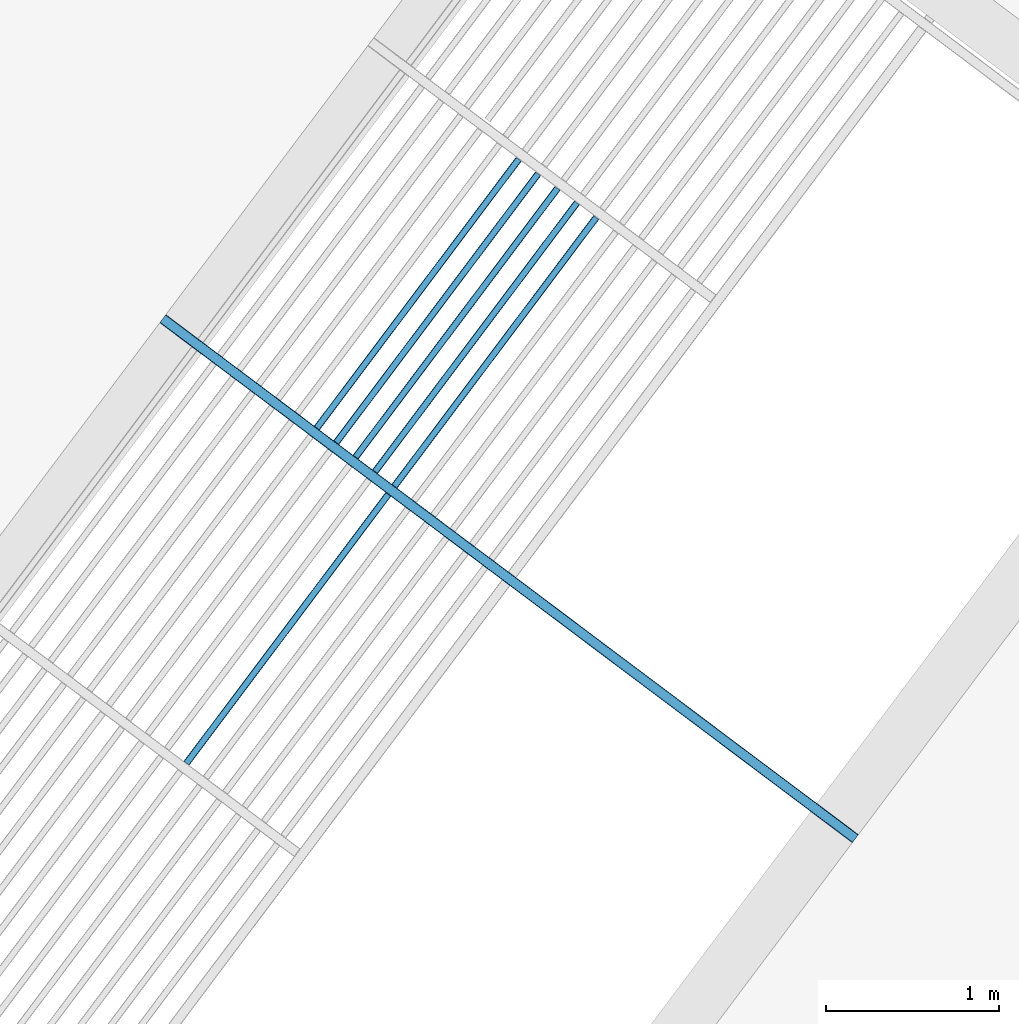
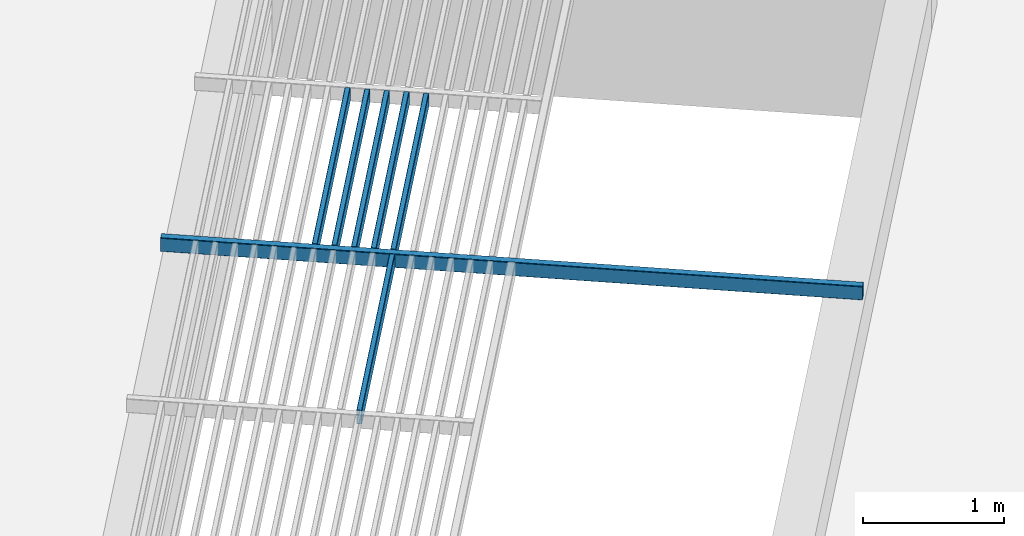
# One storey, part 77 of 95: 7 beams.
"""IFC2X3 building model written with IfcOpenShell, lengths in metres."""

from ifc_helpers import new_model, entity, si_unit, converted_unit, derived_unit, direction, frame, frame_2d, origin, place, context, subcontext, project, spatial, polyline, circle_curve, parameter, trimmed, segment, composite_curve, outline, extrude, material, type_object, element, save


model = new_model("IFC2X3")

# Units and contexts
model_context = context("Model", 3, precision=1e-05, world=origin(), true_north=direction((6.123031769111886e-17, 1.0)))
body_context = subcontext(model_context, "Body", "Model", "MODEL_VIEW")
ifc_project = project(units=[si_unit("LENGTHUNIT", "METRE"), si_unit("AREAUNIT", "SQUARE_METRE"), si_unit("VOLUMEUNIT", "CUBIC_METRE"), converted_unit("PLANEANGLEUNIT", "DEGREE", entity("IfcRatioMeasure", 0.017453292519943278), si_unit("PLANEANGLEUNIT", "RADIAN"), dimensions=[0, 0, 0, 0, 0, 0, 0]), si_unit("MASSUNIT", "GRAM", prefix="KILO"), derived_unit("MASSDENSITYUNIT", [(si_unit("MASSUNIT", "GRAM", prefix="KILO"), 1), (si_unit("LENGTHUNIT", "METRE"), -3)]), derived_unit("IONCONCENTRATIONUNIT", [(si_unit("MASSUNIT", "GRAM", prefix="KILO"), 1), (si_unit("LENGTHUNIT", "METRE"), -3)]), derived_unit("MOMENTOFINERTIAUNIT", [(si_unit("LENGTHUNIT", "METRE"), 4)]), si_unit("TIMEUNIT", "SECOND"), si_unit("FREQUENCYUNIT", "HERTZ"), si_unit("THERMODYNAMICTEMPERATUREUNIT", "DEGREE_CELSIUS"), derived_unit("THERMALTRANSMITTANCEUNIT", [(si_unit("MASSUNIT", "GRAM", prefix="KILO"), 1), (si_unit("THERMODYNAMICTEMPERATUREUNIT", "KELVIN"), -1), (si_unit("TIMEUNIT", "SECOND"), -3)]), derived_unit("THERMALCONDUCTANCEUNIT", [(si_unit("MASSUNIT", "GRAM", prefix="KILO"), 1), (si_unit("THERMODYNAMICTEMPERATUREUNIT", "KELVIN"), -1), (si_unit("TIMEUNIT", "SECOND"), -3), (si_unit("LENGTHUNIT", "METRE"), 1)]), derived_unit("VOLUMETRICFLOWRATEUNIT", [(si_unit("LENGTHUNIT", "METRE"), 3), (si_unit("TIMEUNIT", "SECOND"), -1)]), derived_unit("MASSFLOWRATEUNIT", [(si_unit("MASSUNIT", "GRAM", prefix="KILO"), 1), (si_unit("TIMEUNIT", "SECOND"), -1)]), derived_unit("ROTATIONALFREQUENCYUNIT", [(si_unit("TIMEUNIT", "SECOND"), -1)]), si_unit("ELECTRICCURRENTUNIT", "AMPERE"), si_unit("ELECTRICVOLTAGEUNIT", "VOLT"), si_unit("POWERUNIT", "WATT"), si_unit("FORCEUNIT", "NEWTON", prefix="KILO"), si_unit("ILLUMINANCEUNIT", "LUX"), si_unit("LUMINOUSFLUXUNIT", "LUMEN"), si_unit("LUMINOUSINTENSITYUNIT", "CANDELA"), derived_unit("USERDEFINED", [(si_unit("MASSUNIT", "GRAM", prefix="KILO"), -1), (si_unit("LENGTHUNIT", "METRE"), -2), (si_unit("TIMEUNIT", "SECOND"), 3), (si_unit("LUMINOUSFLUXUNIT", "LUMEN"), 1)]), derived_unit("USERDEFINED", [(si_unit("MASSUNIT", "GRAM", prefix="KILO"), 1), (si_unit("TIMEUNIT", "SECOND"), -3), (si_unit("LENGTHUNIT", "METRE"), 3), (si_unit("ELECTRICCURRENTUNIT", "AMPERE"), -2)]), derived_unit("SOUNDPOWERUNIT", [(si_unit("MASSUNIT", "GRAM", prefix="KILO"), 1), (si_unit("TIMEUNIT", "SECOND"), -3), (si_unit("LENGTHUNIT", "METRE"), 2)]), derived_unit("SOUNDPRESSUREUNIT", [(si_unit("MASSUNIT", "GRAM", prefix="KILO"), 1), (si_unit("LENGTHUNIT", "METRE"), -1), (si_unit("TIMEUNIT", "SECOND"), -2)]), derived_unit("LINEARVELOCITYUNIT", [(si_unit("LENGTHUNIT", "METRE"), 1), (si_unit("TIMEUNIT", "SECOND"), -1)]), si_unit("PRESSUREUNIT", "PASCAL"), derived_unit("USERDEFINED", [(si_unit("MASSUNIT", "GRAM", prefix="KILO"), 1), (si_unit("LENGTHUNIT", "METRE"), -2), (si_unit("TIMEUNIT", "SECOND"), -2)]), derived_unit("LINEARFORCEUNIT", [(si_unit("MASSUNIT", "GRAM", prefix="KILO"), 1), (si_unit("TIMEUNIT", "SECOND"), -2)]), derived_unit("PLANARFORCEUNIT", [(si_unit("MASSUNIT", "GRAM", prefix="KILO"), 1), (si_unit("LENGTHUNIT", "METRE"), -1), (si_unit("TIMEUNIT", "SECOND"), -2)]), derived_unit("SPECIFICHEATCAPACITYUNIT", [(si_unit("THERMODYNAMICTEMPERATUREUNIT", "KELVIN"), -1), (si_unit("LENGTHUNIT", "METRE"), 2), (si_unit("TIMEUNIT", "SECOND"), -2)]), derived_unit("HEATINGVALUEUNIT", [(si_unit("LENGTHUNIT", "METRE"), 2), (si_unit("TIMEUNIT", "SECOND"), -2)]), derived_unit("VAPORPERMEABILITYUNIT", [(si_unit("LENGTHUNIT", "METRE"), -1), (si_unit("TIMEUNIT", "SECOND"), 1)]), derived_unit("DYNAMICVISCOSITYUNIT", [(si_unit("MASSUNIT", "GRAM", prefix="KILO"), 1), (si_unit("TIMEUNIT", "SECOND"), -1), (si_unit("LENGTHUNIT", "METRE"), -1)]), derived_unit("THERMALEXPANSIONCOEFFICIENTUNIT", [(si_unit("THERMODYNAMICTEMPERATUREUNIT", "KELVIN"), -1)]), derived_unit("MODULUSOFELASTICITYUNIT", [(si_unit("MASSUNIT", "GRAM", prefix="KILO"), 1), (si_unit("LENGTHUNIT", "METRE"), -1), (si_unit("TIMEUNIT", "SECOND"), -2)]), derived_unit("ISOTHERMALMOISTURECAPACITYUNIT", [(si_unit("LENGTHUNIT", "METRE"), 3), (si_unit("MASSUNIT", "GRAM", prefix="KILO"), -1)]), derived_unit("MOISTUREDIFFUSIVITYUNIT", [(si_unit("TIMEUNIT", "SECOND"), -1), (si_unit("LENGTHUNIT", "METRE"), 2)])], contexts=[model_context])

# Site, building, storey
site_placement = place(None, origin())
site = spatial("IfcSite", under=ifc_project, at=site_placement, Name="Default", CompositionType="ELEMENT")
building_placement = place(site_placement, frame((0.0, 0.0, 235.0), z_axis=(0.0, 0.0, 1.0), x_axis=(-0.7996477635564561, 0.6004693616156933, 0.0)))
building = spatial("IfcBuilding", under=site, at=building_placement, CompositionType="ELEMENT")
storey_placement = place(building_placement, frame((0.0, 0.0, 3.400000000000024)))
storey = spatial("IfcBuildingStorey", under=building, at=storey_placement, Name="PC- Coberta STR", CompositionType="ELEMENT", Elevation=3.400000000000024)

# Beams
ifc_material = material(Name="_Acer- STR")
beam_type_1 = type_object("IfcBeamType", Name="STR- V- Acer- RHS- Rectangular- T1:120x60RHS", PredefinedType="NOTDEFINED")
beam_1_placement = place(storey_placement, frame((49.045147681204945, -32.4467870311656, 0.49840472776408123), z_axis=(0.0, 0.0, 1.0), x_axis=(-1.0, 0.0, 0.0)))
element("IfcBeam", 1, at=beam_1_placement, inside=storey, type_object=beam_type_1, material=ifc_material, Name="STR- V- Acer- RHS- Rectangular- T1:120x60RHS", ObjectType="STR- V- Acer- RHS- Rectangular- T1:120x60RHS", context=body_context, shape_type="SweptSolid", body=[
    extrude(outline(composite_curve([segment(trimmed(circle_curve(frame_2d((-0.02199999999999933, -0.05200000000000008), x_axis=(1.0, 0.0)), 0.008), [parameter(180.0000000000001)], [parameter(269.99999999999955)], True, "PARAMETER"), True, "CONTINUOUS"), segment(polyline([(-0.022000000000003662, -0.05999999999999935), (0.021999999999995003, -0.05999999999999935)]), True, "CONTINUOUS"), segment(trimmed(circle_curve(frame_2d((0.021999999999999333, -0.05200000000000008), x_axis=(1.0, 0.0)), 0.008), [parameter(269.99999999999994)], [parameter(5.088887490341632e-14)], True, "PARAMETER"), True, "CONTINUOUS"), segment(polyline([(0.029999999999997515, -0.05199999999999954), (0.029999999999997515, 0.052000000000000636)]), True, "CONTINUOUS"), segment(trimmed(circle_curve(frame_2d((0.021999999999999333, 0.052000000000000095), x_axis=(1.0, 0.0)), 0.008), [parameter(359.99999999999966)], [parameter(89.99999999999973)], True, "PARAMETER"), True, "CONTINUOUS"), segment(polyline([(0.021999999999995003, 0.06000000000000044), (-0.022000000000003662, 0.06000000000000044)]), True, "CONTINUOUS"), segment(trimmed(circle_curve(frame_2d((-0.02199999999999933, 0.052000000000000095), x_axis=(1.0, 0.0)), 0.008), [parameter(90.00000000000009)], [parameter(180.00000000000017)], True, "PARAMETER"), True, "CONTINUOUS"), segment(polyline([(-0.03000000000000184, 0.052000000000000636), (-0.03000000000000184, -0.05199999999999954)]), True, "CONTINUOUS")], self_intersect=False), holes=[composite_curve([segment(polyline([(0.021999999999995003, -0.056000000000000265), (-0.022000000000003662, -0.056000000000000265)]), True, "CONTINUOUS"), segment(trimmed(circle_curve(frame_2d((-0.02199999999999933, -0.05200000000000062), x_axis=(1.0, 0.0)), 0.004), [parameter(179.99999999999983)], [parameter(269.9999999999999)], True, "PARAMETER"), False, "CONTINUOUS"), segment(polyline([(-0.02600000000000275, -0.05200000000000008), (-0.02600000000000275, 0.051999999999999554)]), True, "CONTINUOUS"), segment(trimmed(circle_curve(frame_2d((-0.02199999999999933, 0.05199999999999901), x_axis=(1.0, 0.0)), 0.004), [parameter(90.00000000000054)], [parameter(180.00000000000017)], True, "PARAMETER"), False, "CONTINUOUS"), segment(polyline([(-0.022000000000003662, 0.055999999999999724), (0.021999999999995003, 0.055999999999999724)]), True, "CONTINUOUS"), segment(trimmed(circle_curve(frame_2d((0.021999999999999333, 0.05199999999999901), x_axis=(1.0, 0.0)), 0.004), [parameter(0.0)], [parameter(90.00000000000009)], True, "PARAMETER"), False, "CONTINUOUS"), segment(polyline([(0.02599999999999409, 0.051999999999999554), (0.02599999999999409, -0.05200000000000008)]), True, "CONTINUOUS"), segment(trimmed(circle_curve(frame_2d((0.021999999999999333, -0.05200000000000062), x_axis=(1.0, 0.0)), 0.004), [parameter(270.00000000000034)], [parameter(3.5622212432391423e-13)], True, "PARAMETER"), False, "CONTINUOUS")], self_intersect=False)]), frame((-5.0, -0.03159527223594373, 0.061595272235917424), z_axis=(1.0, 0.0, 0.0), x_axis=(0.0, -1.0, 0.0)), (0.0, 0.0, 1.0), 4.999999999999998),
])
beam_type_2 = type_object("IfcBeamType", Name="STR- V- Acer- RHS- Rectangular- T1:120x40RHS -", PredefinedType="NOTDEFINED")
beam_2_placement = place(storey_placement, frame((52.373552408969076, -32.38519175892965, 0.4984047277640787), z_axis=(0.0, 0.0, 1.0), x_axis=(0.0, -1.0, 0.0)))
element("IfcBeam", 2, at=beam_2_placement, inside=storey, type_object=beam_type_2, material=ifc_material, Name="STR- V- Acer- RHS- Rectangular- T1:120x40RHS -", ObjectType="STR- V- Acer- RHS- Rectangular- T1:120x40RHS -", context=body_context, shape_type="SweptSolid", body=[
    extrude(outline(composite_curve([segment(trimmed(circle_curve(frame_2d((-0.01400000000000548, -0.053999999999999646), x_axis=(1.0, 0.0)), 0.006), [parameter(180.0000000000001)], [parameter(269.99999999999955)], True, "PARAMETER"), True, "CONTINUOUS"), segment(polyline([(-0.01400000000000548, -0.0599999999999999), (0.013999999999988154, -0.0599999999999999)]), True, "CONTINUOUS"), segment(trimmed(circle_curve(frame_2d((0.013999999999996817, -0.053999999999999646), x_axis=(1.0, 0.0)), 0.006), [parameter(269.99999999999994)], [parameter(1.0177774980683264e-13)], True, "PARAMETER"), True, "CONTINUOUS"), segment(polyline([(0.019999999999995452, -0.053999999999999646), (0.019999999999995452, 0.05400000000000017)]), True, "CONTINUOUS"), segment(trimmed(circle_curve(frame_2d((0.013999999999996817, 0.05400000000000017), x_axis=(1.0, 0.0)), 0.006), [parameter(359.9999999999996)], [parameter(89.99999999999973)], True, "PARAMETER"), True, "CONTINUOUS"), segment(polyline([(0.013999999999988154, 0.059999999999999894), (-0.01400000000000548, 0.059999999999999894)]), True, "CONTINUOUS"), segment(trimmed(circle_curve(frame_2d((-0.01400000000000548, 0.05400000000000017), x_axis=(1.0, 0.0)), 0.006), [parameter(90.00000000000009)], [parameter(180.00000000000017)], True, "PARAMETER"), True, "CONTINUOUS"), segment(polyline([(-0.02000000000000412, 0.05400000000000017), (-0.02000000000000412, -0.05400000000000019)]), True, "CONTINUOUS")], self_intersect=False), holes=[composite_curve([segment(polyline([(0.013999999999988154, -0.05700000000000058), (-0.01400000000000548, -0.05700000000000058)]), True, "CONTINUOUS"), segment(trimmed(circle_curve(frame_2d((-0.01400000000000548, -0.05400000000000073), x_axis=(1.0, 0.0)), 0.003), [parameter(179.99999999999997)], [parameter(269.9999999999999)], True, "PARAMETER"), False, "CONTINUOUS"), segment(polyline([(-0.017000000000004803, -0.05400000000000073), (-0.017000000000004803, 0.05399999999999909)]), True, "CONTINUOUS"), segment(trimmed(circle_curve(frame_2d((-0.01400000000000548, 0.05399999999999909), x_axis=(1.0, 0.0)), 0.003), [parameter(90.00000000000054)], [parameter(180.0000000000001)], True, "PARAMETER"), False, "CONTINUOUS"), segment(polyline([(-0.01400000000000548, 0.056999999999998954), (0.013999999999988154, 0.056999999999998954)]), True, "CONTINUOUS"), segment(trimmed(circle_curve(frame_2d((0.013999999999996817, 0.05399999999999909), x_axis=(1.0, 0.0)), 0.003), [parameter(0.0)], [parameter(90.00000000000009)], True, "PARAMETER"), False, "CONTINUOUS"), segment(polyline([(0.016999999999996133, 0.05399999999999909), (0.016999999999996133, -0.05400000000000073)]), True, "CONTINUOUS"), segment(trimmed(circle_curve(frame_2d((0.013999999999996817, -0.05400000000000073), x_axis=(1.0, 0.0)), 0.003), [parameter(270.00000000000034)], [parameter(3.053332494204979e-13)], True, "PARAMETER"), False, "CONTINUOUS")], self_intersect=False)]), frame((-1.9399999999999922, 0.02159527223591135, 0.06159527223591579), z_axis=(1.0, 0.0, 0.0), x_axis=(0.0, -1.0, 0.0)), (0.0, 0.0, 1.0), 1.9399999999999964),
])
beam_3_placement = place(storey_placement, frame((52.93355240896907, -34.38519175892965, 0.4984047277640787), z_axis=(0.0, 0.0, 1.0), x_axis=(0.0, -1.0, 0.0)))
element("IfcBeam", 3, at=beam_3_placement, inside=storey, type_object=beam_type_2, material=ifc_material, Name="STR- V- Acer- RHS- Rectangular- T1:120x40RHS -", ObjectType="STR- V- Acer- RHS- Rectangular- T1:120x40RHS -", context=body_context, shape_type="SweptSolid", body=[
    extrude(outline(composite_curve([segment(trimmed(circle_curve(frame_2d((-0.013999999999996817, -0.053999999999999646), x_axis=(1.0, 0.0)), 0.006), [parameter(180.0000000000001)], [parameter(269.99999999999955)], True, "PARAMETER"), True, "CONTINUOUS"), segment(polyline([(-0.013999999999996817, -0.0599999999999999), (0.013999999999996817, -0.0599999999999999)]), True, "CONTINUOUS"), segment(trimmed(circle_curve(frame_2d((0.01400000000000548, -0.053999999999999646), x_axis=(1.0, 0.0)), 0.006), [parameter(269.99999999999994)], [parameter(1.0177774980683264e-13)], True, "PARAMETER"), True, "CONTINUOUS"), segment(polyline([(0.020000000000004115, -0.053999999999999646), (0.020000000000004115, 0.05400000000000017)]), True, "CONTINUOUS"), segment(trimmed(circle_curve(frame_2d((0.01400000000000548, 0.05400000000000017), x_axis=(1.0, 0.0)), 0.006), [parameter(359.9999999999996)], [parameter(89.99999999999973)], True, "PARAMETER"), True, "CONTINUOUS"), segment(polyline([(0.013999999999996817, 0.059999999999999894), (-0.013999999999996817, 0.059999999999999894)]), True, "CONTINUOUS"), segment(trimmed(circle_curve(frame_2d((-0.013999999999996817, 0.05400000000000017), x_axis=(1.0, 0.0)), 0.006), [parameter(90.00000000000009)], [parameter(180.00000000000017)], True, "PARAMETER"), True, "CONTINUOUS"), segment(polyline([(-0.019999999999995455, 0.05400000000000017), (-0.019999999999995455, -0.05400000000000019)]), True, "CONTINUOUS")], self_intersect=False), holes=[composite_curve([segment(polyline([(0.013999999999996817, -0.05700000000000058), (-0.013999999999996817, -0.05700000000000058)]), True, "CONTINUOUS"), segment(trimmed(circle_curve(frame_2d((-0.013999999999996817, -0.05400000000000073), x_axis=(1.0, 0.0)), 0.003), [parameter(179.99999999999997)], [parameter(269.9999999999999)], True, "PARAMETER"), False, "CONTINUOUS"), segment(polyline([(-0.01699999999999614, -0.05400000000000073), (-0.01699999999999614, 0.05399999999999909)]), True, "CONTINUOUS"), segment(trimmed(circle_curve(frame_2d((-0.013999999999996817, 0.05399999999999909), x_axis=(1.0, 0.0)), 0.003), [parameter(90.00000000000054)], [parameter(180.0000000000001)], True, "PARAMETER"), False, "CONTINUOUS"), segment(polyline([(-0.013999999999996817, 0.056999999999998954), (0.013999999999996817, 0.056999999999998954)]), True, "CONTINUOUS"), segment(trimmed(circle_curve(frame_2d((0.01400000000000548, 0.05399999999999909), x_axis=(1.0, 0.0)), 0.003), [parameter(0.0)], [parameter(90.00000000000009)], True, "PARAMETER"), False, "CONTINUOUS"), segment(polyline([(0.017000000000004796, 0.05399999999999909), (0.017000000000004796, -0.05400000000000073)]), True, "CONTINUOUS"), segment(trimmed(circle_curve(frame_2d((0.01400000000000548, -0.05400000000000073), x_axis=(1.0, 0.0)), 0.003), [parameter(270.00000000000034)], [parameter(3.053332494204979e-13)], True, "PARAMETER"), False, "CONTINUOUS")], self_intersect=False)]), frame((-1.9399999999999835, 0.021595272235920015, 0.06159527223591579), z_axis=(1.0, 0.0, 0.0), x_axis=(0.0, -1.0, 0.0)), (0.0, 0.0, 1.0), 1.9399999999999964),
])
beam_4_placement = place(storey_placement, frame((52.793552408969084, -34.38519175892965, 0.4984047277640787), z_axis=(0.0, 0.0, 1.0), x_axis=(0.0, -1.0, 0.0)))
element("IfcBeam", 4, at=beam_4_placement, inside=storey, type_object=beam_type_2, material=ifc_material, Name="STR- V- Acer- RHS- Rectangular- T1:120x40RHS -", ObjectType="STR- V- Acer- RHS- Rectangular- T1:120x40RHS -", context=body_context, shape_type="SweptSolid", body=[
    extrude(outline(composite_curve([segment(trimmed(circle_curve(frame_2d((-0.01400000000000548, -0.053999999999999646), x_axis=(1.0, 0.0)), 0.006), [parameter(180.0000000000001)], [parameter(269.99999999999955)], True, "PARAMETER"), True, "CONTINUOUS"), segment(polyline([(-0.01400000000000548, -0.0599999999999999), (0.013999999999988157, -0.0599999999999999)]), True, "CONTINUOUS"), segment(trimmed(circle_curve(frame_2d((0.013999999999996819, -0.053999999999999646), x_axis=(1.0, 0.0)), 0.006), [parameter(269.99999999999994)], [parameter(1.0177774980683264e-13)], True, "PARAMETER"), True, "CONTINUOUS"), segment(polyline([(0.019999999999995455, -0.053999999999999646), (0.019999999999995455, 0.05400000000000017)]), True, "CONTINUOUS"), segment(trimmed(circle_curve(frame_2d((0.013999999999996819, 0.05400000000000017), x_axis=(1.0, 0.0)), 0.006), [parameter(359.9999999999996)], [parameter(89.99999999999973)], True, "PARAMETER"), True, "CONTINUOUS"), segment(polyline([(0.013999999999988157, 0.059999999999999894), (-0.01400000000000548, 0.059999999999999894)]), True, "CONTINUOUS"), segment(trimmed(circle_curve(frame_2d((-0.01400000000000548, 0.05400000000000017), x_axis=(1.0, 0.0)), 0.006), [parameter(90.00000000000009)], [parameter(180.00000000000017)], True, "PARAMETER"), True, "CONTINUOUS"), segment(polyline([(-0.02000000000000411, 0.05400000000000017), (-0.02000000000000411, -0.05400000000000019)]), True, "CONTINUOUS")], self_intersect=False), holes=[composite_curve([segment(polyline([(0.013999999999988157, -0.05700000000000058), (-0.01400000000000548, -0.05700000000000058)]), True, "CONTINUOUS"), segment(trimmed(circle_curve(frame_2d((-0.01400000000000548, -0.05400000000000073), x_axis=(1.0, 0.0)), 0.003), [parameter(179.99999999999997)], [parameter(269.9999999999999)], True, "PARAMETER"), False, "CONTINUOUS"), segment(polyline([(-0.017000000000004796, -0.05400000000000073), (-0.017000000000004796, 0.05399999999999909)]), True, "CONTINUOUS"), segment(trimmed(circle_curve(frame_2d((-0.01400000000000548, 0.05399999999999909), x_axis=(1.0, 0.0)), 0.003), [parameter(90.00000000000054)], [parameter(180.0000000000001)], True, "PARAMETER"), False, "CONTINUOUS"), segment(polyline([(-0.01400000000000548, 0.056999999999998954), (0.013999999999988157, 0.056999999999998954)]), True, "CONTINUOUS"), segment(trimmed(circle_curve(frame_2d((0.013999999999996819, 0.05399999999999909), x_axis=(1.0, 0.0)), 0.003), [parameter(0.0)], [parameter(90.00000000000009)], True, "PARAMETER"), False, "CONTINUOUS"), segment(polyline([(0.016999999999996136, 0.05399999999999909), (0.016999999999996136, -0.05400000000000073)]), True, "CONTINUOUS"), segment(trimmed(circle_curve(frame_2d((0.013999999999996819, -0.05400000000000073), x_axis=(1.0, 0.0)), 0.003), [parameter(270.00000000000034)], [parameter(3.053332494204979e-13)], True, "PARAMETER"), False, "CONTINUOUS")], self_intersect=False)]), frame((-1.9399999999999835, 0.021595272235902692, 0.06159527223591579), z_axis=(1.0, 0.0, 0.0), x_axis=(0.0, -1.0, 0.0)), (0.0, 0.0, 1.0), 1.9399999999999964),
])
beam_5_placement = place(storey_placement, frame((52.653552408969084, -34.38519175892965, 0.4984047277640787), z_axis=(0.0, 0.0, 1.0), x_axis=(0.0, -1.0, 0.0)))
element("IfcBeam", 5, at=beam_5_placement, inside=storey, type_object=beam_type_2, material=ifc_material, Name="STR- V- Acer- RHS- Rectangular- T1:120x40RHS -", ObjectType="STR- V- Acer- RHS- Rectangular- T1:120x40RHS -", context=body_context, shape_type="SweptSolid", body=[
    extrude(outline(composite_curve([segment(trimmed(circle_curve(frame_2d((-0.01400000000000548, -0.053999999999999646), x_axis=(1.0, 0.0)), 0.006), [parameter(180.0000000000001)], [parameter(269.99999999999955)], True, "PARAMETER"), True, "CONTINUOUS"), segment(polyline([(-0.01400000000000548, -0.0599999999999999), (0.013999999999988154, -0.0599999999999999)]), True, "CONTINUOUS"), segment(trimmed(circle_curve(frame_2d((0.013999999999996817, -0.053999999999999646), x_axis=(1.0, 0.0)), 0.006), [parameter(269.99999999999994)], [parameter(1.0177774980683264e-13)], True, "PARAMETER"), True, "CONTINUOUS"), segment(polyline([(0.019999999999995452, -0.053999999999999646), (0.019999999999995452, 0.05400000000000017)]), True, "CONTINUOUS"), segment(trimmed(circle_curve(frame_2d((0.013999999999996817, 0.05400000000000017), x_axis=(1.0, 0.0)), 0.006), [parameter(359.9999999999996)], [parameter(89.99999999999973)], True, "PARAMETER"), True, "CONTINUOUS"), segment(polyline([(0.013999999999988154, 0.059999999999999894), (-0.01400000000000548, 0.059999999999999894)]), True, "CONTINUOUS"), segment(trimmed(circle_curve(frame_2d((-0.01400000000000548, 0.05400000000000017), x_axis=(1.0, 0.0)), 0.006), [parameter(90.00000000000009)], [parameter(180.00000000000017)], True, "PARAMETER"), True, "CONTINUOUS"), segment(polyline([(-0.02000000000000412, 0.05400000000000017), (-0.02000000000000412, -0.05400000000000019)]), True, "CONTINUOUS")], self_intersect=False), holes=[composite_curve([segment(polyline([(0.013999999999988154, -0.05700000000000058), (-0.01400000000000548, -0.05700000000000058)]), True, "CONTINUOUS"), segment(trimmed(circle_curve(frame_2d((-0.01400000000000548, -0.05400000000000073), x_axis=(1.0, 0.0)), 0.003), [parameter(179.99999999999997)], [parameter(269.9999999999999)], True, "PARAMETER"), False, "CONTINUOUS"), segment(polyline([(-0.017000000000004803, -0.05400000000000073), (-0.017000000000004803, 0.05399999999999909)]), True, "CONTINUOUS"), segment(trimmed(circle_curve(frame_2d((-0.01400000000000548, 0.05399999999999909), x_axis=(1.0, 0.0)), 0.003), [parameter(90.00000000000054)], [parameter(180.0000000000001)], True, "PARAMETER"), False, "CONTINUOUS"), segment(polyline([(-0.01400000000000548, 0.056999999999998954), (0.013999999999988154, 0.056999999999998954)]), True, "CONTINUOUS"), segment(trimmed(circle_curve(frame_2d((0.013999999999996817, 0.05399999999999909), x_axis=(1.0, 0.0)), 0.003), [parameter(0.0)], [parameter(90.00000000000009)], True, "PARAMETER"), False, "CONTINUOUS"), segment(polyline([(0.016999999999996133, 0.05399999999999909), (0.016999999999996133, -0.05400000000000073)]), True, "CONTINUOUS"), segment(trimmed(circle_curve(frame_2d((0.013999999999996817, -0.05400000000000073), x_axis=(1.0, 0.0)), 0.003), [parameter(270.00000000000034)], [parameter(3.053332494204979e-13)], True, "PARAMETER"), False, "CONTINUOUS")], self_intersect=False)]), frame((-1.9399999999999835, 0.02159527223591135, 0.06159527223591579), z_axis=(1.0, 0.0, 0.0), x_axis=(0.0, -1.0, 0.0)), (0.0, 0.0, 1.0), 1.9399999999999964),
])
beam_6_placement = place(storey_placement, frame((52.51355240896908, -34.38519175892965, 0.4984047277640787), z_axis=(0.0, 0.0, 1.0), x_axis=(0.0, -1.0, 0.0)))
element("IfcBeam", 6, at=beam_6_placement, inside=storey, type_object=beam_type_2, material=ifc_material, Name="STR- V- Acer- RHS- Rectangular- T1:120x40RHS -", ObjectType="STR- V- Acer- RHS- Rectangular- T1:120x40RHS -", context=body_context, shape_type="SweptSolid", body=[
    extrude(outline(composite_curve([segment(trimmed(circle_curve(frame_2d((-0.01400000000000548, -0.053999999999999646), x_axis=(1.0, 0.0)), 0.006), [parameter(180.0000000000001)], [parameter(269.99999999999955)], True, "PARAMETER"), True, "CONTINUOUS"), segment(polyline([(-0.01400000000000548, -0.0599999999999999), (0.013999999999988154, -0.0599999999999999)]), True, "CONTINUOUS"), segment(trimmed(circle_curve(frame_2d((0.013999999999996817, -0.053999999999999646), x_axis=(1.0, 0.0)), 0.006), [parameter(269.99999999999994)], [parameter(1.0177774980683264e-13)], True, "PARAMETER"), True, "CONTINUOUS"), segment(polyline([(0.019999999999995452, -0.053999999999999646), (0.019999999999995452, 0.05400000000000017)]), True, "CONTINUOUS"), segment(trimmed(circle_curve(frame_2d((0.013999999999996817, 0.05400000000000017), x_axis=(1.0, 0.0)), 0.006), [parameter(359.9999999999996)], [parameter(89.99999999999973)], True, "PARAMETER"), True, "CONTINUOUS"), segment(polyline([(0.013999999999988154, 0.059999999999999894), (-0.01400000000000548, 0.059999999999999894)]), True, "CONTINUOUS"), segment(trimmed(circle_curve(frame_2d((-0.01400000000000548, 0.05400000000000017), x_axis=(1.0, 0.0)), 0.006), [parameter(90.00000000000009)], [parameter(180.00000000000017)], True, "PARAMETER"), True, "CONTINUOUS"), segment(polyline([(-0.02000000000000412, 0.05400000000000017), (-0.02000000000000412, -0.05400000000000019)]), True, "CONTINUOUS")], self_intersect=False), holes=[composite_curve([segment(polyline([(0.013999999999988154, -0.05700000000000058), (-0.01400000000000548, -0.05700000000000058)]), True, "CONTINUOUS"), segment(trimmed(circle_curve(frame_2d((-0.01400000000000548, -0.05400000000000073), x_axis=(1.0, 0.0)), 0.003), [parameter(179.99999999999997)], [parameter(269.9999999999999)], True, "PARAMETER"), False, "CONTINUOUS"), segment(polyline([(-0.017000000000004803, -0.05400000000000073), (-0.017000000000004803, 0.05399999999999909)]), True, "CONTINUOUS"), segment(trimmed(circle_curve(frame_2d((-0.01400000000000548, 0.05399999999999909), x_axis=(1.0, 0.0)), 0.003), [parameter(90.00000000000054)], [parameter(180.0000000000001)], True, "PARAMETER"), False, "CONTINUOUS"), segment(polyline([(-0.01400000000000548, 0.056999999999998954), (0.013999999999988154, 0.056999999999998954)]), True, "CONTINUOUS"), segment(trimmed(circle_curve(frame_2d((0.013999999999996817, 0.05399999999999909), x_axis=(1.0, 0.0)), 0.003), [parameter(0.0)], [parameter(90.00000000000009)], True, "PARAMETER"), False, "CONTINUOUS"), segment(polyline([(0.016999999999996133, 0.05399999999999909), (0.016999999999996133, -0.05400000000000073)]), True, "CONTINUOUS"), segment(trimmed(circle_curve(frame_2d((0.013999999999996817, -0.05400000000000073), x_axis=(1.0, 0.0)), 0.003), [parameter(270.00000000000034)], [parameter(3.053332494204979e-13)], True, "PARAMETER"), False, "CONTINUOUS")], self_intersect=False)]), frame((-1.9399999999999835, 0.02159527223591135, 0.06159527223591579), z_axis=(1.0, 0.0, 0.0), x_axis=(0.0, -1.0, 0.0)), (0.0, 0.0, 1.0), 1.9399999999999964),
])
beam_7_placement = place(storey_placement, frame((52.373552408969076, -34.38519175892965, 0.4984047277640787), z_axis=(0.0, 0.0, 1.0), x_axis=(0.0, -1.0, 0.0)))
element("IfcBeam", 7, at=beam_7_placement, inside=storey, type_object=beam_type_2, material=ifc_material, Name="STR- V- Acer- RHS- Rectangular- T1:120x40RHS -", ObjectType="STR- V- Acer- RHS- Rectangular- T1:120x40RHS -", context=body_context, shape_type="SweptSolid", body=[
    extrude(outline(composite_curve([segment(trimmed(circle_curve(frame_2d((-0.01400000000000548, -0.053999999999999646), x_axis=(1.0, 0.0)), 0.006), [parameter(180.0000000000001)], [parameter(269.99999999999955)], True, "PARAMETER"), True, "CONTINUOUS"), segment(polyline([(-0.01400000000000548, -0.0599999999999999), (0.013999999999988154, -0.0599999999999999)]), True, "CONTINUOUS"), segment(trimmed(circle_curve(frame_2d((0.013999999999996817, -0.053999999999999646), x_axis=(1.0, 0.0)), 0.006), [parameter(269.99999999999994)], [parameter(1.0177774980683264e-13)], True, "PARAMETER"), True, "CONTINUOUS"), segment(polyline([(0.019999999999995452, -0.053999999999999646), (0.019999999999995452, 0.05400000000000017)]), True, "CONTINUOUS"), segment(trimmed(circle_curve(frame_2d((0.013999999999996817, 0.05400000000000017), x_axis=(1.0, 0.0)), 0.006), [parameter(359.9999999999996)], [parameter(89.99999999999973)], True, "PARAMETER"), True, "CONTINUOUS"), segment(polyline([(0.013999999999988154, 0.059999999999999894), (-0.01400000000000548, 0.059999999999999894)]), True, "CONTINUOUS"), segment(trimmed(circle_curve(frame_2d((-0.01400000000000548, 0.05400000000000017), x_axis=(1.0, 0.0)), 0.006), [parameter(90.00000000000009)], [parameter(180.00000000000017)], True, "PARAMETER"), True, "CONTINUOUS"), segment(polyline([(-0.02000000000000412, 0.05400000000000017), (-0.02000000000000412, -0.05400000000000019)]), True, "CONTINUOUS")], self_intersect=False), holes=[composite_curve([segment(polyline([(0.013999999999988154, -0.05700000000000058), (-0.01400000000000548, -0.05700000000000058)]), True, "CONTINUOUS"), segment(trimmed(circle_curve(frame_2d((-0.01400000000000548, -0.05400000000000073), x_axis=(1.0, 0.0)), 0.003), [parameter(179.99999999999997)], [parameter(269.9999999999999)], True, "PARAMETER"), False, "CONTINUOUS"), segment(polyline([(-0.017000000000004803, -0.05400000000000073), (-0.017000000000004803, 0.05399999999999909)]), True, "CONTINUOUS"), segment(trimmed(circle_curve(frame_2d((-0.01400000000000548, 0.05399999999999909), x_axis=(1.0, 0.0)), 0.003), [parameter(90.00000000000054)], [parameter(180.0000000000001)], True, "PARAMETER"), False, "CONTINUOUS"), segment(polyline([(-0.01400000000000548, 0.056999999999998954), (0.013999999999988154, 0.056999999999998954)]), True, "CONTINUOUS"), segment(trimmed(circle_curve(frame_2d((0.013999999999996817, 0.05399999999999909), x_axis=(1.0, 0.0)), 0.003), [parameter(0.0)], [parameter(90.00000000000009)], True, "PARAMETER"), False, "CONTINUOUS"), segment(polyline([(0.016999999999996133, 0.05399999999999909), (0.016999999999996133, -0.05400000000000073)]), True, "CONTINUOUS"), segment(trimmed(circle_curve(frame_2d((0.013999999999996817, -0.05400000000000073), x_axis=(1.0, 0.0)), 0.003), [parameter(270.00000000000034)], [parameter(3.053332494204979e-13)], True, "PARAMETER"), False, "CONTINUOUS")], self_intersect=False)]), frame((-1.9399999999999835, 0.02159527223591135, 0.06159527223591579), z_axis=(1.0, 0.0, 0.0), x_axis=(0.0, -1.0, 0.0)), (0.0, 0.0, 1.0), 1.9399999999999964),
])

save(model, "model.ifc")
